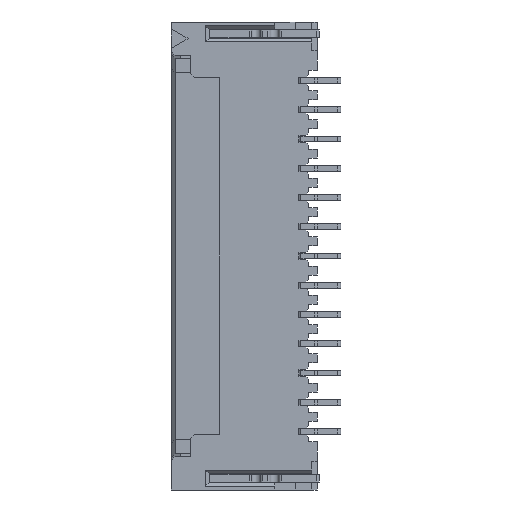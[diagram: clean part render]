
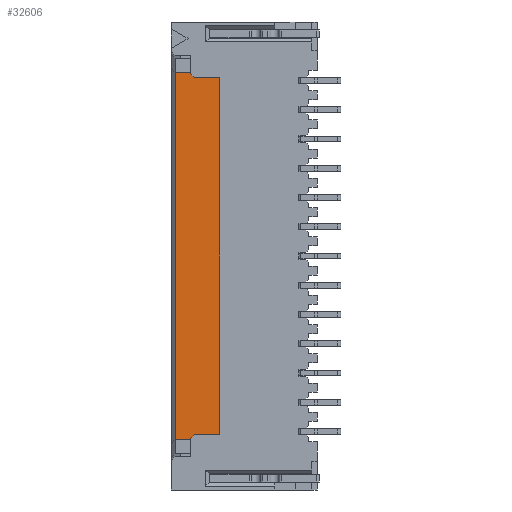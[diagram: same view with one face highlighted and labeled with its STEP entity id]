
A CAD part, left-side view. The second image highlights one B-rep face of the part: STEP entity #32606.
In plain terms, the highlighted planar face has unit normal (-1, 0, 0).
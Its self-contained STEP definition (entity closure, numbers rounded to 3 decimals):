
#511 = VECTOR ( 'NONE', #26170, 1000. ) ;
#2221 = ORIENTED_EDGE ( 'NONE', *, *, #32117, .T. ) ;
#4337 = LINE ( 'NONE', #25164, #26891 ) ;
#5121 = AXIS2_PLACEMENT_3D ( 'NONE', #8628, #14509, #26882 ) ;
#5147 = LINE ( 'NONE', #7320, #26443 ) ;
#5227 = VERTEX_POINT ( 'NONE', #13904 ) ;
#7320 = CARTESIAN_POINT ( 'NONE',  ( 3.846, 3.979, -4.17 ) ) ;
#7359 = EDGE_CURVE ( 'NONE', #32721, #5227, #20053, .T. ) ;
#7923 = CARTESIAN_POINT ( 'NONE',  ( 3.846, 3.979, 4.17 ) ) ;
#8295 = DIRECTION ( 'NONE',  ( 0., 1., 0. ) ) ;
#8560 = VECTOR ( 'NONE', #8295, 1000. ) ;
#8590 = EDGE_CURVE ( 'NONE', #32721, #10359, #25973, .T. ) ;
#8628 = CARTESIAN_POINT ( 'NONE',  ( 3.846, -14.192, -4.17 ) ) ;
#10359 = VERTEX_POINT ( 'NONE', #26240 ) ;
#11580 = PLANE ( 'NONE',  #5121 ) ;
#13176 = DIRECTION ( 'NONE',  ( 0., 1., 0. ) ) ;
#13904 = CARTESIAN_POINT ( 'NONE',  ( 3.846, -1.371, 4.17 ) ) ;
#14509 = DIRECTION ( 'NONE',  ( 1., 0., 0. ) ) ;
#16128 = ORIENTED_EDGE ( 'NONE', *, *, #8590, .F. ) ;
#18351 = VERTEX_POINT ( 'NONE', #7923 ) ;
#18613 = CARTESIAN_POINT ( 'NONE',  ( 3.846, -1.371, -14.67 ) ) ;
#20053 = LINE ( 'NONE', #20260, #511 ) ;
#20260 = CARTESIAN_POINT ( 'NONE',  ( 3.846, -1.371, -4.17 ) ) ;
#23211 = CARTESIAN_POINT ( 'NONE',  ( 3.846, -14.192, -14.67 ) ) ;
#23360 = FACE_OUTER_BOUND ( 'NONE', #31164, .T. ) ;
#24926 = ORIENTED_EDGE ( 'NONE', *, *, #36345, .T. ) ;
#25164 = CARTESIAN_POINT ( 'NONE',  ( 3.846, -14.192, 4.17 ) ) ;
#25973 = LINE ( 'NONE', #23211, #8560 ) ;
#26170 = DIRECTION ( 'NONE',  ( 0., 0., 1. ) ) ;
#26240 = CARTESIAN_POINT ( 'NONE',  ( 3.846, 3.979, -14.67 ) ) ;
#26443 = VECTOR ( 'NONE', #34429, 1000. ) ;
#26719 = ORIENTED_EDGE ( 'NONE', *, *, #7359, .T. ) ;
#26882 = DIRECTION ( 'NONE',  ( 0., 1., 0. ) ) ;
#26891 = VECTOR ( 'NONE', #13176, 1000. ) ;
#31164 = EDGE_LOOP ( 'NONE', ( #2221, #16128, #26719, #24926 ) ) ;
#32117 = EDGE_CURVE ( 'NONE', #18351, #10359, #5147, .T. ) ;
#32606 = ADVANCED_FACE ( 'NONE', ( #23360 ), #11580, .F. ) ;
#32721 = VERTEX_POINT ( 'NONE', #18613 ) ;
#34429 = DIRECTION ( 'NONE',  ( 0., 0., -1. ) ) ;
#36345 = EDGE_CURVE ( 'NONE', #5227, #18351, #4337, .T. ) ;
